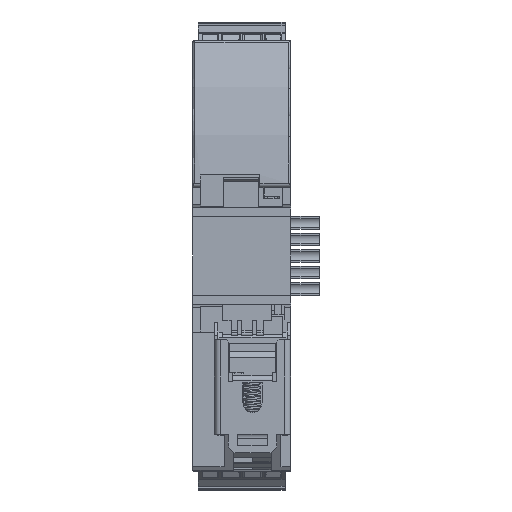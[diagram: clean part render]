
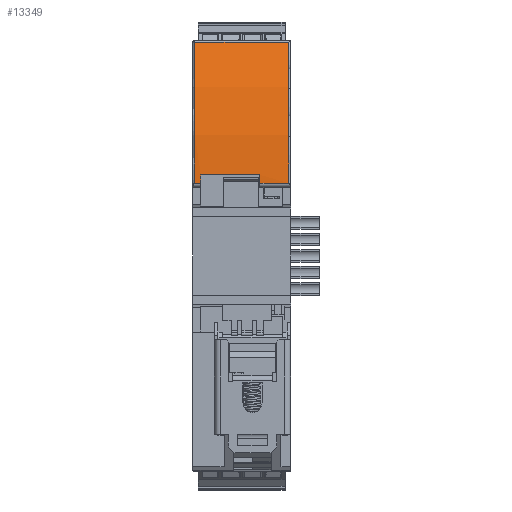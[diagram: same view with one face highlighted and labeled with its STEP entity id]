
A CAD part, left-side view. The second image highlights one B-rep face of the part: STEP entity #13349.
In plain terms, the highlighted cylindrical face has radius 80 mm (diameter 160 mm), a partial arc.
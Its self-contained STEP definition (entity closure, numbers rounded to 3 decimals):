
#13349=ADVANCED_FACE('',(#55810),#55812,.T.);
#55810=FACE_BOUND('',#55811,.T.);
#55811=EDGE_LOOP('',(#99101,#99102,#99103,#99104,#99105,#99106,#99107,#99108));
#55812=CYLINDRICAL_SURFACE('',#55813,80.);
#55813=AXIS2_PLACEMENT_3D('',#55814,#55815,#55816);
#55814=CARTESIAN_POINT('',(75.75,12.1,13.5));
#55815=DIRECTION('',(0.,-1.,0.));
#55816=DIRECTION('',(0.,0.,-1.));
#99101=ORIENTED_EDGE('',*,*,#126837,.F.);
#99102=ORIENTED_EDGE('',*,*,#127273,.T.);
#99103=ORIENTED_EDGE('',*,*,#127274,.F.);
#99104=ORIENTED_EDGE('',*,*,#122332,.F.);
#99105=ORIENTED_EDGE('',*,*,#122329,.T.);
#99106=ORIENTED_EDGE('',*,*,#127272,.T.);
#99107=ORIENTED_EDGE('',*,*,#122451,.T.);
#99108=ORIENTED_EDGE('',*,*,#122449,.T.);
#122329=EDGE_CURVE('',#139853,#139854,#139855,.T.);
#122332=EDGE_CURVE('',#139853,#139858,#139859,.T.);
#122449=EDGE_CURVE('',#140048,#140046,#140049,.T.);
#122451=EDGE_CURVE('',#140051,#140048,#140052,.T.);
#126837=EDGE_CURVE('',#147599,#140046,#147601,.T.);
#127272=EDGE_CURVE('',#139854,#140051,#148329,.T.);
#127273=EDGE_CURVE('',#147599,#148330,#148331,.T.);
#127274=EDGE_CURVE('',#139858,#148330,#148332,.T.);
#139853=VERTEX_POINT('',#170582);
#139854=VERTEX_POINT('',#170583);
#139855=CIRCLE('',#170584,80.);
#139858=VERTEX_POINT('',#170674);
#139859=LINE('',#170675,#170676);
#140046=VERTEX_POINT('',#171109);
#140048=VERTEX_POINT('',#171114);
#140049=LINE('',#171115,#171116);
#140051=VERTEX_POINT('',#171187);
#140052=CIRCLE('',#171188,80.);
#147599=VERTEX_POINT('',#189829);
#147601=CIRCLE('',#189833,80.);
#148329=LINE('',#191507,#191508);
#148330=VERTEX_POINT('',#191510);
#148331=LINE('',#191511,#191512);
#148332=CIRCLE('',#191514,80.);
#170582=CARTESIAN_POINT('',(-4.184,0.5,16.741));
#170583=CARTESIAN_POINT('',(4.169,0.5,49.223));
#170584=AXIS2_PLACEMENT_3D('',#170585,#170586,#170587);
#170585=CARTESIAN_POINT('',(75.75,0.5,13.5));
#170586=DIRECTION('',(0.,1.,0.));
#170587=DIRECTION('',(-0.999,0.,0.041));
#170674=CARTESIAN_POINT('',(-4.184,7.1,16.741));
#170675=CARTESIAN_POINT('',(-4.184,0.5,16.741));
#170676=VECTOR('',#170677,1.);
#170677=DIRECTION('',(0.,1.,0.));
#171109=CARTESIAN_POINT('',(-4.184,20.7,16.741));
#171114=CARTESIAN_POINT('',(-4.184,22.1,16.741));
#171115=CARTESIAN_POINT('',(-4.184,22.1,16.741));
#171116=VECTOR('',#171117,1.);
#171117=DIRECTION('',(0.,-1.,0.));
#171187=CARTESIAN_POINT('',(4.169,22.1,49.223));
#171188=AXIS2_PLACEMENT_3D('',#171189,#171190,#171191);
#171189=CARTESIAN_POINT('',(75.75,22.1,13.5));
#171190=DIRECTION('',(0.,-1.,0.));
#171191=DIRECTION('',(-0.895,0.,0.447));
#189829=CARTESIAN_POINT('',(-4.081,20.7,18.7));
#189833=AXIS2_PLACEMENT_3D('',#189834,#189835,#189836);
#189834=CARTESIAN_POINT('',(75.75,20.7,13.5));
#189835=DIRECTION('',(0.,-1.,0.));
#189836=DIRECTION('',(-0.998,0.,0.065));
#191507=CARTESIAN_POINT('',(4.169,0.5,49.223));
#191508=VECTOR('',#191509,1.);
#191509=DIRECTION('',(0.,1.,0.));
#191510=CARTESIAN_POINT('',(-4.081,7.1,18.7));
#191511=CARTESIAN_POINT('',(-4.081,20.7,18.7));
#191512=VECTOR('',#191513,1.);
#191513=DIRECTION('',(0.,-1.,0.));
#191514=AXIS2_PLACEMENT_3D('',#191515,#191516,#191517);
#191515=CARTESIAN_POINT('',(75.75,7.1,13.5));
#191516=DIRECTION('',(0.,1.,0.));
#191517=DIRECTION('',(-0.999,0.,0.041));
